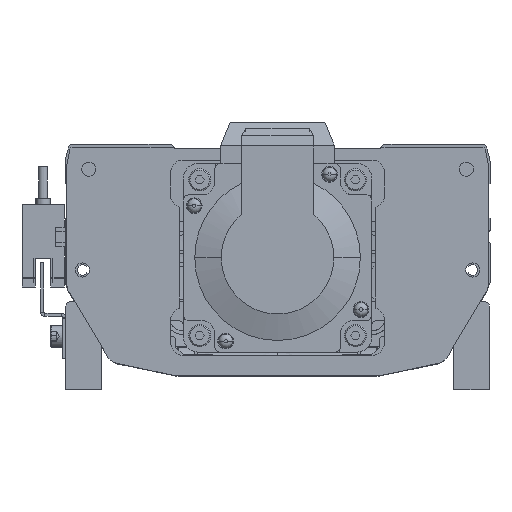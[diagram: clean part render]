
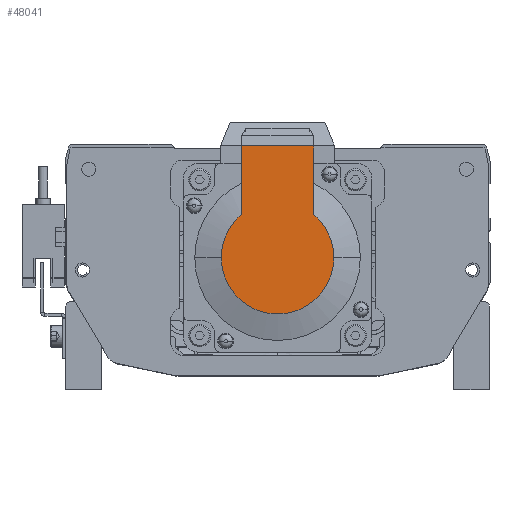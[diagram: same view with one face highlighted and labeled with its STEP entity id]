
A CAD part, front view. The second image highlights one B-rep face of the part: STEP entity #48041.
In plain terms, the highlighted planar face has unit normal (0, -1, 0) as drawn and (0, 1, 0) by its records, which use the part's own axes.
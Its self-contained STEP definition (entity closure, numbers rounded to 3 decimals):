
#1196 = DIRECTION ( 'NONE',  ( 0., 0., -1. ) ) ;
#2546 = EDGE_CURVE ( 'NONE', #16497, #17986, #40442, .T. ) ;
#5675 = CARTESIAN_POINT ( 'NONE',  ( 35.5, 98.5, -11.45 ) ) ;
#6308 = EDGE_LOOP ( 'NONE', ( #43077, #40670, #26789, #37155, #49546, #55321 ) ) ;
#6736 = CARTESIAN_POINT ( 'NONE',  ( 13.735, 98.5, 11.45 ) ) ;
#7158 = EDGE_CURVE ( 'NONE', #32166, #16497, #55546, .T. ) ;
#9501 = EDGE_CURVE ( 'NONE', #28203, #32166, #61250, .T. ) ;
#14378 = CARTESIAN_POINT ( 'NONE',  ( 13.735, 98.5, -11.45 ) ) ;
#16320 = EDGE_CURVE ( 'NONE', #28203, #43695, #61100, .T. ) ;
#16497 = VERTEX_POINT ( 'NONE', #6736 ) ;
#17986 = VERTEX_POINT ( 'NONE', #28260 ) ;
#18069 = VECTOR ( 'NONE', #60215, 1000. ) ;
#18118 = CIRCLE ( 'NONE', #30246, 17.881 ) ;
#19643 = CARTESIAN_POINT ( 'NONE',  ( 35.5, 98.5, 0. ) ) ;
#19782 = AXIS2_PLACEMENT_3D ( 'NONE', #25693, #35695, #45120 ) ;
#24050 = PLANE ( 'NONE',  #47625 ) ;
#24114 = CARTESIAN_POINT ( 'NONE',  ( 0., 98.5, -11.45 ) ) ;
#25693 = CARTESIAN_POINT ( 'NONE',  ( 0., 98.5, 0. ) ) ;
#26789 = ORIENTED_EDGE ( 'NONE', *, *, #9501, .F. ) ;
#26835 = DIRECTION ( 'NONE',  ( 0., 0., -1. ) ) ;
#28203 = VERTEX_POINT ( 'NONE', #5675 ) ;
#28260 = CARTESIAN_POINT ( 'NONE',  ( 0., 98.5, 17.881 ) ) ;
#29078 = CARTESIAN_POINT ( 'NONE',  ( 0., 98.5, 0. ) ) ;
#29661 = DIRECTION ( 'NONE',  ( 0., 0., -1. ) ) ;
#30246 = AXIS2_PLACEMENT_3D ( 'NONE', #59700, #49823, #26835 ) ;
#32166 = VERTEX_POINT ( 'NONE', #55738 ) ;
#33639 = VERTEX_POINT ( 'NONE', #60743 ) ;
#35695 = DIRECTION ( 'NONE',  ( 0., -1., 0. ) ) ;
#36476 = FACE_OUTER_BOUND ( 'NONE', #6308, .T. ) ;
#36507 = VECTOR ( 'NONE', #44068, 1000. ) ;
#37155 = ORIENTED_EDGE ( 'NONE', *, *, #16320, .T. ) ;
#38701 = DIRECTION ( 'NONE',  ( -1., 0., 0. ) ) ;
#40103 = VECTOR ( 'NONE', #38701, 1000. ) ;
#40442 = CIRCLE ( 'NONE', #48754, 17.881 ) ;
#40670 = ORIENTED_EDGE ( 'NONE', *, *, #7158, .F. ) ;
#41691 = EDGE_CURVE ( 'NONE', #33639, #43695, #18118, .T. ) ;
#43077 = ORIENTED_EDGE ( 'NONE', *, *, #2546, .F. ) ;
#43695 = VERTEX_POINT ( 'NONE', #14378 ) ;
#43825 = DIRECTION ( 'NONE',  ( 0., -1., 0. ) ) ;
#44068 = DIRECTION ( 'NONE',  ( 0., 0., 1. ) ) ;
#45120 = DIRECTION ( 'NONE',  ( 0., 0., -1. ) ) ;
#47625 = AXIS2_PLACEMENT_3D ( 'NONE', #29078, #59212, #1196 ) ;
#48041 = ADVANCED_FACE ( 'NONE', ( #36476 ), #24050, .F. ) ;
#48754 = AXIS2_PLACEMENT_3D ( 'NONE', #58311, #43825, #29661 ) ;
#49546 = ORIENTED_EDGE ( 'NONE', *, *, #41691, .F. ) ;
#49823 = DIRECTION ( 'NONE',  ( 0., -1., 0. ) ) ;
#52866 = EDGE_CURVE ( 'NONE', #17986, #33639, #57550, .T. ) ;
#55012 = CARTESIAN_POINT ( 'NONE',  ( 0., 98.5, 11.45 ) ) ;
#55321 = ORIENTED_EDGE ( 'NONE', *, *, #52866, .F. ) ;
#55546 = LINE ( 'NONE', #55012, #18069 ) ;
#55738 = CARTESIAN_POINT ( 'NONE',  ( 35.5, 98.5, 11.45 ) ) ;
#57550 = CIRCLE ( 'NONE', #19782, 17.881 ) ;
#58311 = CARTESIAN_POINT ( 'NONE',  ( 0., 98.5, 0. ) ) ;
#59212 = DIRECTION ( 'NONE',  ( 0., -1., 0. ) ) ;
#59700 = CARTESIAN_POINT ( 'NONE',  ( 0., 98.5, 0. ) ) ;
#60215 = DIRECTION ( 'NONE',  ( -1., 0., 0. ) ) ;
#60743 = CARTESIAN_POINT ( 'NONE',  ( 0., 98.5, -17.881 ) ) ;
#61100 = LINE ( 'NONE', #24114, #40103 ) ;
#61250 = LINE ( 'NONE', #19643, #36507 ) ;
